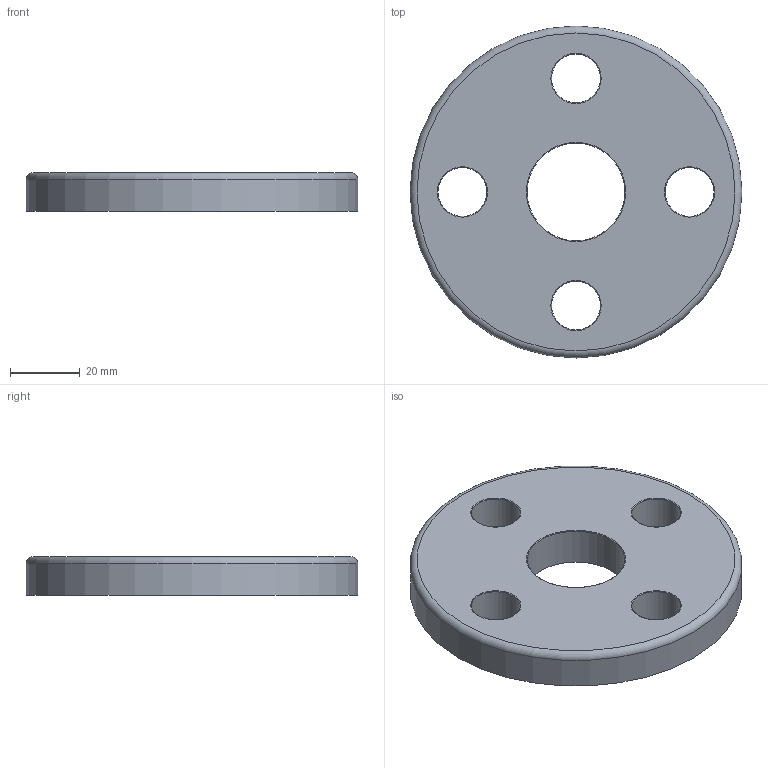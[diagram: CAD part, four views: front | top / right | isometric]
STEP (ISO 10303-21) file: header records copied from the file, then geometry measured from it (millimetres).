
FILE_DESCRIPTION(/* description */ ('PVC-U flangia libera BS 4504 DIN 8063 / PVC-U backing ring drilled to BS 4504 DIN 8063'),/* implementation_level */ '2;1');
FILE_NAME(/* name */ 'C:\Users\POLYPIPE\Desktop\DATASET INVENTOR\LIBRERIA EFFAST\RACCORDI 3DxWEB\RDR\3D_RDRFLD\3D_RDRFLD0200.stp',/* time_stamp */ '2018-01-19T14:21:31+01:00',/* author */ ('POLYPIPE'),/* organization */ ('Polypipe Italia s.r.l.'),/* preprocessor_version */ 'ST-DEVELOPER v16.1',/* originating_system */ 'Autodesk Inventor 2016',/* authorisation */ '');
FILE_SCHEMA (('CONFIG_CONTROL_DESIGN','AP203_CONFIGURATION_CONTROLLED_3D_DESIGN_OF_MECHANICAL_PARTS_AND_ASSEMBLIES_MIM_LF { 1 0 10303 203 3 1 4 }'));
Length unit declared in the file: millimetre
Products named in the file (1): 3D_RDRFLD
Bounding box: 95 x 95 x 11 mm (x, y, z)
Volume: 64167.8 mm3; surface area: 17618.7 mm2
Topology: 1 solids, 1 shells, 14 faces, 30 edges, 18 vertices
Faces by surface type: torus 6, cylinder 6, plane 2
Full cylindrical faces by diameter (mm): 14 x4, 28 x1, 95 x1
Entity records: 368 total; most frequent: DIRECTION 66, CARTESIAN_POINT 51, EDGE_LOOP 36, ORIENTED_EDGE 36, AXIS2_PLACEMENT_3D 33, FACE_BOUND 22, CIRCLE 18, VERTEX_POINT 18
